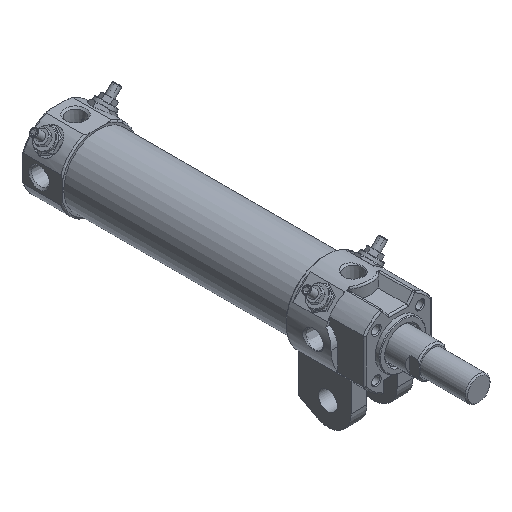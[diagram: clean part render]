
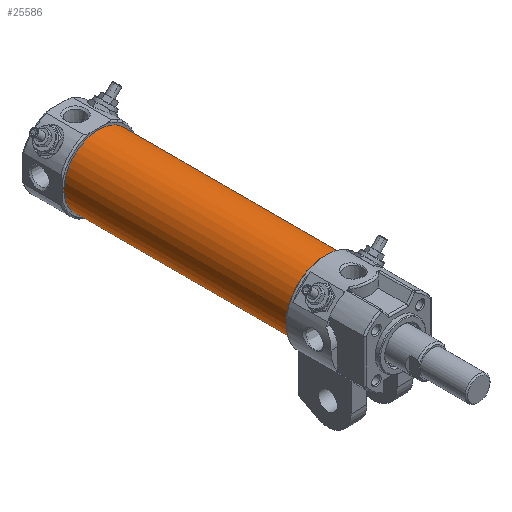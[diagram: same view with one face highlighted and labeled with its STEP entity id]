
A CAD part, isometric view. The second image highlights one B-rep face of the part: STEP entity #25586.
In plain terms, the highlighted cylindrical face has radius 22.5 mm (diameter 45 mm), a full revolution.
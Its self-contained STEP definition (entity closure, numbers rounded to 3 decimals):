
#20512=CARTESIAN_POINT('',(22.5,196.5,0.));
#20513=VERTEX_POINT('',#20512);
#20514=CARTESIAN_POINT('',(0.0,196.5,0.0));
#20515=DIRECTION('',(0.0,-1.0,0.0));
#20516=DIRECTION('',(-1.0,0.0,0.0));
#20517=AXIS2_PLACEMENT_3D('',#20514,#20515,#20516);
#20518=CIRCLE('',#20517,22.5);
#20519=EDGE_CURVE('',#20513,#20513,#20518,.T.);
#25563=CARTESIAN_POINT('',(22.5,50.5,0.));
#25564=VERTEX_POINT('',#25563);
#25565=CARTESIAN_POINT('',(0.0,50.5,0.0));
#25566=DIRECTION('',(0.0,-1.0,0.0));
#25567=DIRECTION('',(-1.0,0.0,0.0));
#25568=AXIS2_PLACEMENT_3D('',#25565,#25566,#25567);
#25569=CIRCLE('',#25568,22.5);
#25570=EDGE_CURVE('',#25564,#25564,#25569,.T.);
#25575=CARTESIAN_POINT('',(0.0,50.5,0.0));
#25576=DIRECTION('',(0.0,1.0,0.0));
#25577=DIRECTION('',(-1.0,0.0,0.0));
#25578=AXIS2_PLACEMENT_3D('',#25575,#25576,#25577);
#25579=CYLINDRICAL_SURFACE('',#25578,22.5);
#25580=ORIENTED_EDGE('',*,*,#20519,.T.);
#25581=EDGE_LOOP('',(#25580));
#25582=FACE_OUTER_BOUND('',#25581,.T.);
#25583=ORIENTED_EDGE('',*,*,#25570,.F.);
#25584=EDGE_LOOP('',(#25583));
#25585=FACE_BOUND('',#25584,.T.);
#25586=ADVANCED_FACE('',(#25582,#25585),#25579,.T.);
